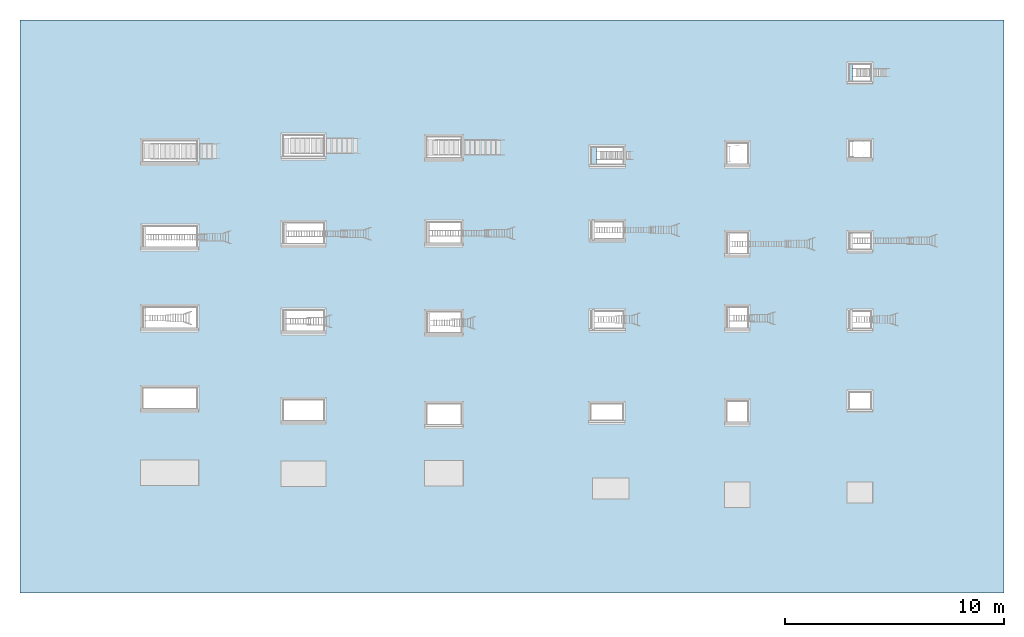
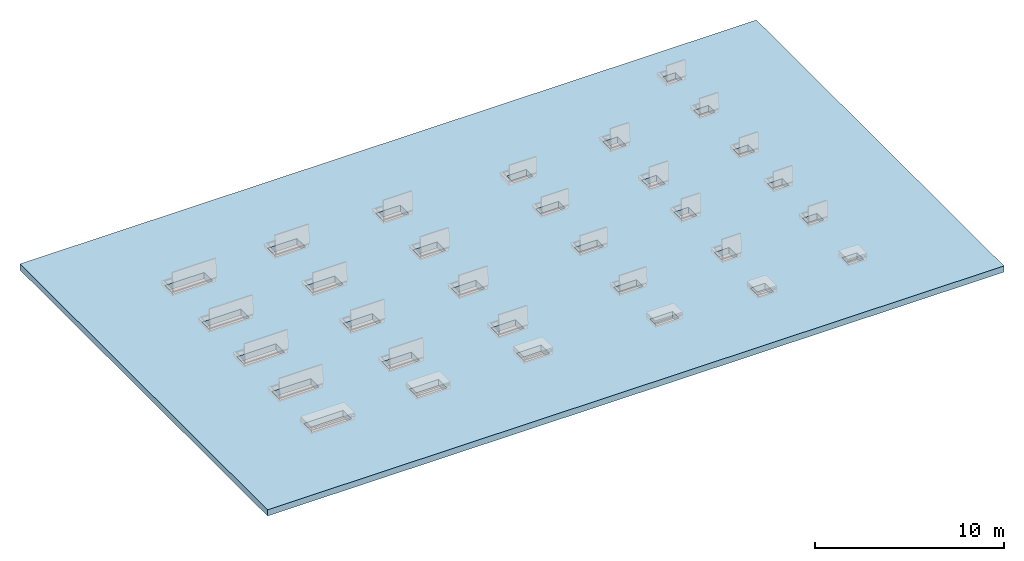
# One storey, part 1 of 28: 1 slab, 31 openings, 1 element without a shape of its own.
"""IFC2X3 building model written with IfcOpenShell, lengths in millimetres."""

from ifc_helpers import new_model, entity, si_unit, converted_unit, derived_unit, direction, frame, frame_2d, origin, origin_2d_with_axis, place, context, subcontext, project, spatial, rectangle, extrude, element, aggregate, save


model = new_model("IFC2X3")

# Units and contexts
model_context = context("Model", 3, precision=0.01, world=origin(), true_north=direction((6.12303176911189e-17, 1.0)))
body_context = subcontext(model_context, "Body", "Model", "MODEL_VIEW")
ifc_project = project(units=[si_unit("LENGTHUNIT", "METRE", prefix="MILLI"), si_unit("AREAUNIT", "SQUARE_METRE"), si_unit("VOLUMEUNIT", "CUBIC_METRE"), converted_unit("PLANEANGLEUNIT", "DEGREE", entity("IfcRatioMeasure", 0.0174532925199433), si_unit("PLANEANGLEUNIT", "RADIAN"), dimensions=[0, 0, 0, 0, 0, 0, 0]), si_unit("MASSUNIT", "GRAM", prefix="KILO"), derived_unit("MASSDENSITYUNIT", [(si_unit("MASSUNIT", "GRAM", prefix="KILO"), 1), (si_unit("LENGTHUNIT", "METRE"), -3)]), si_unit("TIMEUNIT", "SECOND"), si_unit("FREQUENCYUNIT", "HERTZ"), si_unit("THERMODYNAMICTEMPERATUREUNIT", "DEGREE_CELSIUS"), derived_unit("THERMALTRANSMITTANCEUNIT", [(si_unit("MASSUNIT", "GRAM", prefix="KILO"), 1), (si_unit("THERMODYNAMICTEMPERATUREUNIT", "KELVIN"), -1), (si_unit("TIMEUNIT", "SECOND"), -3)]), derived_unit("VOLUMETRICFLOWRATEUNIT", [(si_unit("LENGTHUNIT", "METRE"), 3), (si_unit("TIMEUNIT", "SECOND"), -1)]), si_unit("ELECTRICCURRENTUNIT", "AMPERE"), si_unit("ELECTRICVOLTAGEUNIT", "VOLT"), si_unit("POWERUNIT", "WATT"), si_unit("FORCEUNIT", "NEWTON", prefix="KILO"), si_unit("ILLUMINANCEUNIT", "LUX"), si_unit("LUMINOUSFLUXUNIT", "LUMEN"), si_unit("LUMINOUSINTENSITYUNIT", "CANDELA"), derived_unit("USERDEFINED", [(si_unit("MASSUNIT", "GRAM", prefix="KILO"), -1), (si_unit("LENGTHUNIT", "METRE"), -2), (si_unit("TIMEUNIT", "SECOND"), 3), (si_unit("LUMINOUSFLUXUNIT", "LUMEN"), 1)]), derived_unit("LINEARVELOCITYUNIT", [(si_unit("LENGTHUNIT", "METRE"), 1), (si_unit("TIMEUNIT", "SECOND"), -1)]), si_unit("PRESSUREUNIT", "PASCAL"), derived_unit("USERDEFINED", [(si_unit("LENGTHUNIT", "METRE"), -2), (si_unit("MASSUNIT", "GRAM", prefix="KILO"), 1), (si_unit("TIMEUNIT", "SECOND"), -2)])], contexts=[model_context])

# Site, building, storey
site_placement = place(None, origin())
site = spatial("IfcSite", under=ifc_project, at=site_placement, Name="Default", CompositionType="ELEMENT")
building_placement = place(site_placement, origin())
building = spatial("IfcBuilding", under=site, at=building_placement, CompositionType="ELEMENT")
storey_placement = place(building_placement, frame((0.0, 0.0, 4000.0)))
storey = spatial("IfcBuildingStorey", under=building, at=storey_placement, Name="Level 2", CompositionType="ELEMENT", Elevation=4000.0)

# Roof, slab, openings
roof_placement = place(storey_placement, origin())
roof = element("IfcRoof", 1, at=roof_placement, inside=storey, Name="Basic Roof:Generic - 400mm", ObjectType="Basic Roof:Generic - 400mm:335", ShapeType="NOTDEFINED")
slab_placement = place(storey_placement, origin())
slab = element("IfcSlab", 2, at=slab_placement, Name="Basic Roof:Generic - 400mm:1", ObjectType="Basic Roof:Generic - 400mm:335", PredefinedType="ROOF", context=body_context, shape_type="SweptSolid", body=[
    extrude(rectangle(XDim=26200.0, YDim=45000.0, at=origin_2d_with_axis()), frame((-2546.06605205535, 6383.25087254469, 0.0), z_axis=(0.0, 0.0, 1.0), x_axis=(0.0, 1.0, 0.0)), (0.0, 0.0, 1.0), 400.0),
])
opening_1_placement = place(storey_placement, origin())
element("IfcOpeningElement", 3, at=opening_1_placement, cuts=slab, Name="Basic Roof:Generic - 400mm:1", ObjectType="Opening", context=body_context, shape_type="SweptSolid", body=[
    extrude(rectangle(XDim=2400.0, YDim=899.962945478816, at=frame_2d((-236.000000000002, 89.9962945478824), x_axis=(1.0, 0.0))), frame((-17968.3769970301, 5783.76809434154, 0.0)), (0.0, 0.0, 1.0), 400.0),
])
opening_2_placement = place(storey_placement, origin())
element("IfcOpeningElement", 4, at=opening_2_placement, cuts=slab, Name="Basic Roof:Generic - 400mm:2", ObjectType="Opening", context=body_context, shape_type="SweptSolid", body=[
    extrude(rectangle(XDim=699.962945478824, YDim=1400.0, at=frame_2d((1.08002495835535e-12, 0.0), x_axis=(1.0, 0.0))), frame((1810.05274684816, 5773.76438888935, 0.0), z_axis=(0.0, 0.0, 1.0), x_axis=(0.0, 1.0, 0.0)), (0.0, 0.0, 1.0), 400.0),
])
opening_3_placement = place(storey_placement, origin())
element("IfcOpeningElement", 5, at=opening_3_placement, cuts=slab, Name="Basic Roof:Generic - 400mm:3", ObjectType="Opening", context=body_context, shape_type="SweptSolid", body=[
    extrude(rectangle(XDim=899.999999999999, YDim=899.96294547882, at=frame_2d((-86.0000000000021, 89.9962945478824), x_axis=(1.0, 0.0))), frame((7840.34329989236, 5783.76809434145, 0.0)), (0.0, 0.0, 1.0), 400.0),
])
opening_4_placement = place(storey_placement, origin())
element("IfcOpeningElement", 6, at=opening_4_placement, cuts=slab, Name="Basic Roof:Generic - 400mm:4", ObjectType="Opening", context=body_context, shape_type="SweptSolid", body=[
    extrude(rectangle(XDim=899.999999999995, YDim=699.962945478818, at=frame_2d((-86.0000000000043, 69.9962945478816), x_axis=(1.0, 0.0))), frame((13452.6196151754, 5703.76809434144, 0.0)), (0.0, 0.0, 1.0), 400.0),
])
opening_5_placement = place(storey_placement, origin())
element("IfcOpeningElement", 7, at=opening_5_placement, cuts=slab, Name="Basic Roof:Generic - 400mm:5", ObjectType="Opening", context=body_context, shape_type="SweptSolid", body=[
    extrude(rectangle(XDim=1800.0, YDim=899.96294547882, at=frame_2d((-175.999999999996, 89.9962945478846), x_axis=(1.0, 0.0))), frame((-11906.0401791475, 5640.52216943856, 0.0)), (0.0, 0.0, 1.0), 400.0),
])
opening_6_placement = place(storey_placement, origin())
element("IfcOpeningElement", 8, at=opening_6_placement, cuts=slab, Name="Basic Roof:Generic - 400mm:6", ObjectType="Opening", context=body_context, shape_type="SweptSolid", body=[
    extrude(rectangle(XDim=1500.0, YDim=899.96294547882, at=frame_2d((-145.999999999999, 89.9962945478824), x_axis=(1.0, 0.0))), frame((-5513.65903603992, 5565.62261493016, 0.0)), (0.0, 0.0, 1.0), 400.0),
])
opening_7_placement = place(storey_placement, origin())
element("IfcOpeningElement", 9, at=opening_7_placement, cuts=slab, Name="Basic Roof:Generic - 400mm:7", ObjectType="Opening", context=body_context, shape_type="SweptSolid", body=[
    extrude(rectangle(XDim=899.99999999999, YDim=699.962945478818, at=frame_2d((-85.9999999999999, 69.9962945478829), x_axis=(1.0, 0.0))), frame((13452.6196151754, 2003.76809434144, 0.0)), (0.0, 0.0, 1.0), 400.0),
])
opening_8_placement = place(storey_placement, origin())
element("IfcOpeningElement", 10, at=opening_8_placement, cuts=slab, Name="Basic Roof:Generic - 400mm:8", ObjectType="Opening", context=body_context, shape_type="SweptSolid", body=[
    extrude(rectangle(XDim=899.999999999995, YDim=699.962945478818, at=frame_2d((-85.9999999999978, 69.9962945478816), x_axis=(1.0, 0.0))), frame((13452.6196151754, 9303.76809434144, 0.0)), (0.0, 0.0, 1.0), 400.0),
])
opening_9_placement = place(storey_placement, origin())
element("IfcOpeningElement", 11, at=opening_9_placement, cuts=slab, Name="Basic Roof:Generic - 400mm:9", ObjectType="Opening", context=body_context, shape_type="SweptSolid", body=[
    extrude(rectangle(XDim=899.99999999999, YDim=699.962945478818, at=frame_2d((-85.9999999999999, 69.9962945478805), x_axis=(1.0, 0.0))), frame((13452.6196151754, 13503.7680943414, 0.0)), (0.0, 0.0, 1.0), 400.0),
])
opening_10_placement = place(storey_placement, origin())
element("IfcOpeningElement", 12, at=opening_10_placement, cuts=slab, Name="Basic Roof:Generic - 400mm:10", ObjectType="Opening", context=body_context, shape_type="SweptSolid", body=[
    extrude(rectangle(XDim=786.999999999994, YDim=699.962945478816, at=frame_2d((-74.6999999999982, 69.9962945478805), x_axis=(1.0, 0.0))), frame((13497.8196151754, 17003.7680943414, 0.0)), (0.0, 0.0, 1.0), 400.0),
])
opening_11_placement = place(storey_placement, origin())
element("IfcOpeningElement", 13, at=opening_11_placement, cuts=slab, Name="Basic Roof:Generic - 400mm:11", ObjectType="Opening", context=body_context, shape_type="SweptSolid", body=[
    extrude(rectangle(XDim=899.999999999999, YDim=899.962945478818, at=frame_2d((-85.9999999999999, 89.9962945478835), x_axis=(1.0, 0.0))), frame((7840.34329989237, 13283.7680943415, 0.0)), (0.0, 0.0, 1.0), 400.0),
])
opening_12_placement = place(storey_placement, origin())
element("IfcOpeningElement", 14, at=opening_12_placement, cuts=slab, Name="Basic Roof:Generic - 400mm:12", ObjectType="Opening", context=body_context, shape_type="SweptSolid", body=[
    extrude(rectangle(XDim=899.999999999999, YDim=899.962945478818, at=frame_2d((-86.0000000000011, 89.9962945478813), x_axis=(1.0, 0.0))), frame((7840.34329989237, 9183.76809434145, 0.0)), (0.0, 0.0, 1.0), 400.0),
])
opening_13_placement = place(storey_placement, origin())
element("IfcOpeningElement", 15, at=opening_13_placement, cuts=slab, Name="Basic Roof:Generic - 400mm:13", ObjectType="Opening", context=body_context, shape_type="SweptSolid", body=[
    extrude(rectangle(XDim=899.999999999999, YDim=899.96294547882, at=frame_2d((-86.0000000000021, 89.9962945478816), x_axis=(1.0, 0.0))), frame((7840.34329989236, 1483.76809434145, 0.0)), (0.0, 0.0, 1.0), 400.0),
])
opening_14_placement = place(storey_placement, origin())
element("IfcOpeningElement", 16, at=opening_14_placement, cuts=slab, Name="Basic Roof:Generic - 400mm:14", ObjectType="Opening", context=body_context, shape_type="SweptSolid", body=[
    extrude(rectangle(XDim=699.962945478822, YDim=1200.0, at=frame_2d((-1.08002495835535e-12, 0.0), x_axis=(1.0, 0.0))), frame((1910.05274684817, 13273.7643888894, 0.0), z_axis=(0.0, 0.0, 1.0), x_axis=(0.0, 1.0, 0.0)), (0.0, 0.0, 1.0), 400.0),
])
opening_15_placement = place(storey_placement, origin())
element("IfcOpeningElement", 17, at=opening_15_placement, cuts=slab, Name="Basic Roof:Generic - 400mm:15", ObjectType="Opening", context=body_context, shape_type="SweptSolid", body=[
    extrude(rectangle(XDim=699.962945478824, YDim=1400.0, at=frame_2d((-1.08002495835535e-12, 0.0), x_axis=(1.0, 0.0))), frame((1810.05274684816, 9873.76438888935, 0.0), z_axis=(0.0, 0.0, 1.0), x_axis=(0.0, 1.0, 0.0)), (0.0, 0.0, 1.0), 400.0),
])
opening_16_placement = place(storey_placement, origin())
element("IfcOpeningElement", 18, at=opening_16_placement, cuts=slab, Name="Basic Roof:Generic - 400mm:16", ObjectType="Opening", context=body_context, shape_type="SweptSolid", body=[
    extrude(rectangle(XDim=699.962945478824, YDim=1400.0, at=frame_2d((5.40012479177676e-13, 0.0), x_axis=(1.0, 0.0))), frame((1780.27572835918, 1554.37891076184, 0.0), z_axis=(0.0, 0.0, 1.0), x_axis=(0.0, 1.0, 0.0)), (0.0, 0.0, 1.0), 400.0),
])
opening_17_placement = place(storey_placement, origin())
element("IfcOpeningElement", 19, at=opening_17_placement, cuts=slab, Name="Basic Roof:Generic - 400mm:17", ObjectType="Opening", context=body_context, shape_type="SweptSolid", body=[
    extrude(rectangle(XDim=1500.0, YDim=899.962945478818, at=frame_2d((-146.000000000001, 89.9962945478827), x_axis=(1.0, 0.0))), frame((-5513.65903603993, 1365.62261493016, 0.0)), (0.0, 0.0, 1.0), 400.0),
])
opening_18_placement = place(storey_placement, origin())
element("IfcOpeningElement", 20, at=opening_18_placement, cuts=slab, Name="Basic Roof:Generic - 400mm:18", ObjectType="Opening", context=body_context, shape_type="SweptSolid", body=[
    extrude(rectangle(XDim=1500.0, YDim=899.96294547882, at=frame_2d((-146.000000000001, 89.9962945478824), x_axis=(1.0, 0.0))), frame((-5513.65903603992, 9665.62261493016, 0.0)), (0.0, 0.0, 1.0), 400.0),
])
opening_19_placement = place(storey_placement, origin())
element("IfcOpeningElement", 21, at=opening_19_placement, cuts=slab, Name="Basic Roof:Generic - 400mm:19", ObjectType="Opening", context=body_context, shape_type="SweptSolid", body=[
    extrude(rectangle(XDim=1500.0, YDim=899.96294547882, at=frame_2d((-145.999999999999, 89.9962945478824), x_axis=(1.0, 0.0))), frame((-5513.65903603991, 13565.6226149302, 0.0)), (0.0, 0.0, 1.0), 400.0),
])
opening_20_placement = place(storey_placement, origin())
element("IfcOpeningElement", 22, at=opening_20_placement, cuts=slab, Name="Basic Roof:Generic - 400mm:20", ObjectType="Opening", context=body_context, shape_type="SweptSolid", body=[
    extrude(rectangle(XDim=1800.0, YDim=899.962945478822, at=frame_2d((-175.999999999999, 89.9962945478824), x_axis=(1.0, 0.0))), frame((-11906.0401791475, 9640.52216943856, 0.0)), (0.0, 0.0, 1.0), 400.0),
])
opening_21_placement = place(storey_placement, origin())
element("IfcOpeningElement", 23, at=opening_21_placement, cuts=slab, Name="Basic Roof:Generic - 400mm:21", ObjectType="Opening", context=body_context, shape_type="SweptSolid", body=[
    extrude(rectangle(XDim=1800.0, YDim=899.962945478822, at=frame_2d((-175.999999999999, 89.996294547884), x_axis=(1.0, 0.0))), frame((-11906.0401791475, 1540.52216943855, 0.0)), (0.0, 0.0, 1.0), 400.0),
])
opening_22_placement = place(storey_placement, origin())
element("IfcOpeningElement", 24, at=opening_22_placement, cuts=slab, Name="Basic Roof:Generic - 400mm:22", ObjectType="Opening", context=body_context, shape_type="SweptSolid", body=[
    extrude(rectangle(XDim=1800.0, YDim=899.962945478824, at=frame_2d((-175.999999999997, 89.9962945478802), x_axis=(1.0, 0.0))), frame((-11906.0401791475, 13640.5221694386, 0.0)), (0.0, 0.0, 1.0), 400.0),
])
opening_23_placement = place(storey_placement, origin())
element("IfcOpeningElement", 25, at=opening_23_placement, cuts=slab, Name="Basic Roof:Generic - 400mm:23", ObjectType="Opening", context=body_context, shape_type="SweptSolid", body=[
    extrude(rectangle(XDim=2400.0, YDim=899.962945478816, at=frame_2d((-236.000000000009, 89.9962945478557), x_axis=(1.0, 0.0))), frame((-17968.37699703, 13383.7680943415, 0.0)), (0.0, 0.0, 1.0), 400.0),
])
opening_24_placement = place(storey_placement, origin())
element("IfcOpeningElement", 26, at=opening_24_placement, cuts=slab, Name="Basic Roof:Generic - 400mm:24", ObjectType="Opening", context=body_context, shape_type="SweptSolid", body=[
    extrude(rectangle(XDim=2400.0, YDim=899.962945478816, at=frame_2d((-236.000000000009, 89.9962945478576), x_axis=(1.0, 0.0))), frame((-17968.3769970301, 2083.76809434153, 0.0)), (0.0, 0.0, 1.0), 400.0),
])
opening_25_placement = place(storey_placement, origin())
element("IfcOpeningElement", 27, at=opening_25_placement, cuts=slab, Name="Basic Roof:Generic - 400mm:25", ObjectType="Opening", context=body_context, shape_type="SweptSolid", body=[
    extrude(rectangle(XDim=2400.0, YDim=899.962945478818, at=frame_2d((-236.000000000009, 89.9962945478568), x_axis=(1.0, 0.0))), frame((-17968.37699703, 9483.76809434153, 0.0)), (0.0, 0.0, 1.0), 400.0),
])
opening_26_placement = place(storey_placement, origin())
element("IfcOpeningElement", 28, at=opening_26_placement, cuts=slab, Name="Basic Roof:Generic - 400mm:26", ObjectType="Opening", context=body_context, shape_type="SweptSolid", body=[
    extrude(rectangle(XDim=2400.0, YDim=899.962945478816, at=frame_2d((-235.999999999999, 89.9962945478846), x_axis=(1.0, 0.0))), frame((-17968.3769970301, -1316.23190565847, 0.0)), (0.0, 0.0, 1.0), 400.0),
])
opening_27_placement = place(storey_placement, origin())
element("IfcOpeningElement", 29, at=opening_27_placement, cuts=slab, Name="Basic Roof:Generic - 400mm:27", ObjectType="Opening", context=body_context, shape_type="SweptSolid", body=[
    extrude(rectangle(XDim=1800.0, YDim=899.962945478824, at=frame_2d((-175.999999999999, 89.9962945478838), x_axis=(1.0, 0.0))), frame((-11906.0401791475, -1359.47783056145, 0.0)), (0.0, 0.0, 1.0), 400.0),
])
opening_28_placement = place(storey_placement, origin())
element("IfcOpeningElement", 30, at=opening_28_placement, cuts=slab, Name="Basic Roof:Generic - 400mm:28", ObjectType="Opening", context=body_context, shape_type="SweptSolid", body=[
    extrude(rectangle(XDim=1500.0, YDim=899.962945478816, at=frame_2d((-146.000000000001, 89.9962945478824), x_axis=(1.0, 0.0))), frame((-5513.65903603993, -1334.37738506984, 0.0)), (0.0, 0.0, 1.0), 400.0),
])
opening_29_placement = place(storey_placement, origin())
element("IfcOpeningElement", 31, at=opening_29_placement, cuts=slab, Name="Basic Roof:Generic - 400mm:29", ObjectType="Opening", context=body_context, shape_type="SweptSolid", body=[
    extrude(rectangle(XDim=699.962945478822, YDim=1400.0, at=origin_2d_with_axis()), frame((1963.45157520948, -1940.82446087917, 0.0), z_axis=(0.0, 0.0, 1.0), x_axis=(0.0, 1.0, 0.0)), (0.0, 0.0, 1.0), 400.0),
])
opening_30_placement = place(storey_placement, origin())
element("IfcOpeningElement", 32, at=opening_30_placement, cuts=slab, Name="Basic Roof:Generic - 400mm:30", ObjectType="Opening", context=body_context, shape_type="SweptSolid", body=[
    extrude(rectangle(XDim=899.999999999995, YDim=899.96294547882, at=frame_2d((-85.9999999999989, 89.9962945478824), x_axis=(1.0, 0.0))), frame((7840.34329989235, -2316.23190565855, 0.0)), (0.0, 0.0, 1.0), 400.0),
])
opening_31_placement = place(storey_placement, origin())
element("IfcOpeningElement", 33, at=opening_31_placement, cuts=slab, Name="Basic Roof:Generic - 400mm:31", ObjectType="Opening", context=body_context, shape_type="SweptSolid", body=[
    extrude(rectangle(XDim=899.999999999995, YDim=699.962945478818, at=frame_2d((-86.0000000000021, 69.9962945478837), x_axis=(1.0, 0.0))), frame((13452.6196151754, -2196.23190565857, 0.0)), (0.0, 0.0, 1.0), 400.0),
])
aggregate(roof, [slab])

save(model, "model.ifc")
